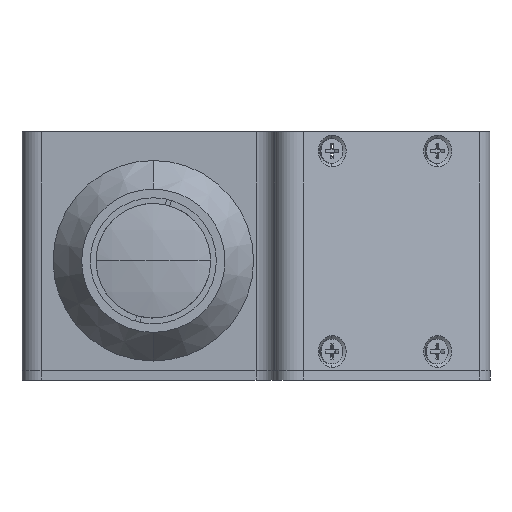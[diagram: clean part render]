
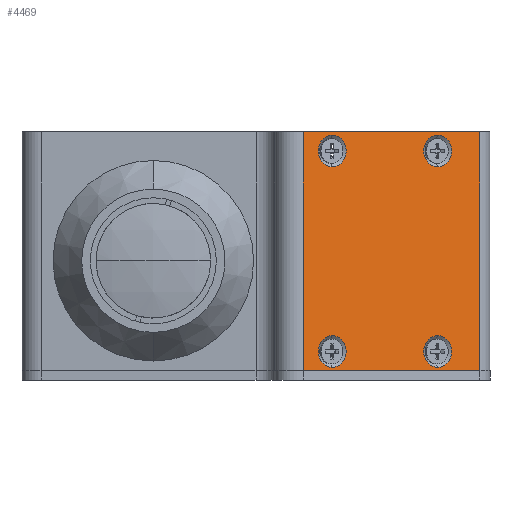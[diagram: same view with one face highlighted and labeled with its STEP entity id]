
A CAD part, left-side view. The second image highlights one B-rep face of the part: STEP entity #4469.
In plain terms, the highlighted planar face has unit normal (-0.883, -0.469, 0).
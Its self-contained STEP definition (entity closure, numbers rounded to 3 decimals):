
#260 = ORIENTED_EDGE ( 'NONE', *, *, #7083, .F. ) ;
#356 = CARTESIAN_POINT ( 'NONE',  ( 54.176, -59.548, -15.7 ) ) ;
#433 = DIRECTION ( 'NONE',  ( -0.883, -0.469, 0. ) ) ;
#706 = DIRECTION ( 'NONE',  ( -0.883, -0.469, 0. ) ) ;
#730 = ORIENTED_EDGE ( 'NONE', *, *, #13495, .F. ) ;
#780 = EDGE_CURVE ( 'NONE', #4722, #13202, #8121, .T. ) ;
#852 = DIRECTION ( 'NONE',  ( 0., 0., 1. ) ) ;
#990 = EDGE_LOOP ( 'NONE', ( #730, #13197 ) ) ;
#1703 = ORIENTED_EDGE ( 'NONE', *, *, #5938, .F. ) ;
#1982 = VERTEX_POINT ( 'NONE', #7827 ) ;
#2062 = DIRECTION ( 'NONE',  ( 0., 0., -1. ) ) ;
#2072 = CARTESIAN_POINT ( 'NONE',  ( 54.176, -59.548, -22.3 ) ) ;
#2614 = AXIS2_PLACEMENT_3D ( 'NONE', #4300, #12365, #5463 ) ;
#2702 = FACE_BOUND ( 'NONE', #990, .T. ) ;
#2752 = EDGE_CURVE ( 'NONE', #6493, #3518, #9275, .T. ) ;
#2759 = CARTESIAN_POINT ( 'NONE',  ( 39.181, -31.348, 27. ) ) ;
#2768 = VERTEX_POINT ( 'NONE', #13553 ) ;
#2824 = EDGE_CURVE ( 'NONE', #6493, #3565, #9457, .T. ) ;
#2871 = DIRECTION ( 'NONE',  ( -0.883, -0.469, 0. ) ) ;
#3037 = CARTESIAN_POINT ( 'NONE',  ( 39.181, -31.348, -23. ) ) ;
#3185 = CARTESIAN_POINT ( 'NONE',  ( 58.871, -68.378, 27. ) ) ;
#3339 = CARTESIAN_POINT ( 'NONE',  ( 42.439, -37.475, 19.7 ) ) ;
#3424 = CIRCLE ( 'NONE', #10269, 3.3 ) ;
#3518 = VERTEX_POINT ( 'NONE', #3037 ) ;
#3565 = VERTEX_POINT ( 'NONE', #3185 ) ;
#3611 = AXIS2_PLACEMENT_3D ( 'NONE', #7621, #706, #8776 ) ;
#3703 = CARTESIAN_POINT ( 'NONE',  ( 54.176, -59.548, 23. ) ) ;
#4043 = VECTOR ( 'NONE', #2062, 1000. ) ;
#4231 = DIRECTION ( 'NONE',  ( -0.883, -0.469, 0. ) ) ;
#4300 = CARTESIAN_POINT ( 'NONE',  ( 54.176, -59.548, -19. ) ) ;
#4469 = ADVANCED_FACE ( 'NONE', ( #11914, #14525, #2702, #11565, #8486 ), #11424, .T. ) ;
#4567 = CARTESIAN_POINT ( 'NONE',  ( 42.439, -37.475, -15.7 ) ) ;
#4722 = VERTEX_POINT ( 'NONE', #14141 ) ;
#4753 = EDGE_LOOP ( 'NONE', ( #260, #9949 ) ) ;
#4858 = DIRECTION ( 'NONE',  ( 0., 0., 1. ) ) ;
#4995 = ORIENTED_EDGE ( 'NONE', *, *, #2824, .F. ) ;
#5463 = DIRECTION ( 'NONE',  ( 0., 0., 1. ) ) ;
#5637 = ORIENTED_EDGE ( 'NONE', *, *, #9112, .T. ) ;
#5661 = DIRECTION ( 'NONE',  ( 0., 0., 1. ) ) ;
#5938 = EDGE_CURVE ( 'NONE', #10860, #12909, #6235, .T. ) ;
#5981 = VERTEX_POINT ( 'NONE', #12344 ) ;
#5992 = CARTESIAN_POINT ( 'NONE',  ( 42.439, -37.475, 26.3 ) ) ;
#6109 = EDGE_CURVE ( 'NONE', #1982, #3518, #10192, .T. ) ;
#6157 = AXIS2_PLACEMENT_3D ( 'NONE', #3703, #11766, #4858 ) ;
#6235 = CIRCLE ( 'NONE', #12005, 3.3 ) ;
#6389 = VERTEX_POINT ( 'NONE', #5992 ) ;
#6416 = CARTESIAN_POINT ( 'NONE',  ( 42.439, -37.475, -19. ) ) ;
#6493 = VERTEX_POINT ( 'NONE', #2759 ) ;
#6795 = CARTESIAN_POINT ( 'NONE',  ( 62.112, -74.473, 27. ) ) ;
#6808 = CIRCLE ( 'NONE', #6157, 3.3 ) ;
#7083 = EDGE_CURVE ( 'NONE', #6389, #8156, #14059, .T. ) ;
#7330 = CARTESIAN_POINT ( 'NONE',  ( 42.439, -37.475, 23. ) ) ;
#7527 = EDGE_LOOP ( 'NONE', ( #12790, #13738 ) ) ;
#7546 = DIRECTION ( 'NONE',  ( 0., 0., 1. ) ) ;
#7621 = CARTESIAN_POINT ( 'NONE',  ( 42.439, -37.475, 23. ) ) ;
#7719 = AXIS2_PLACEMENT_3D ( 'NONE', #9809, #2871, #10965 ) ;
#7760 = DIRECTION ( 'NONE',  ( -0.883, -0.469, 0. ) ) ;
#7827 = CARTESIAN_POINT ( 'NONE',  ( 58.871, -68.378, -23. ) ) ;
#7903 = DIRECTION ( 'NONE',  ( -0.883, -0.469, 0. ) ) ;
#8051 = EDGE_CURVE ( 'NONE', #2768, #5981, #9588, .T. ) ;
#8121 = CIRCLE ( 'NONE', #7719, 3.3 ) ;
#8156 = VERTEX_POINT ( 'NONE', #3339 ) ;
#8486 = FACE_OUTER_BOUND ( 'NONE', #10938, .T. ) ;
#8505 = DIRECTION ( 'NONE',  ( 0., 0., 1. ) ) ;
#8589 = EDGE_LOOP ( 'NONE', ( #10878, #1703 ) ) ;
#8776 = DIRECTION ( 'NONE',  ( 0., 0., 1. ) ) ;
#9112 = EDGE_CURVE ( 'NONE', #1982, #3565, #14840, .T. ) ;
#9176 = VECTOR ( 'NONE', #11045, 1000. ) ;
#9275 = LINE ( 'NONE', #11311, #4043 ) ;
#9457 = LINE ( 'NONE', #6795, #12162 ) ;
#9588 = CIRCLE ( 'NONE', #12021, 3.3 ) ;
#9809 = CARTESIAN_POINT ( 'NONE',  ( 42.439, -37.475, -19. ) ) ;
#9870 = CARTESIAN_POINT ( 'NONE',  ( 58.871, -68.378, 2. ) ) ;
#9949 = ORIENTED_EDGE ( 'NONE', *, *, #13960, .F. ) ;
#9995 = EDGE_CURVE ( 'NONE', #5981, #2768, #6808, .T. ) ;
#10192 = LINE ( 'NONE', #13687, #12871 ) ;
#10269 = AXIS2_PLACEMENT_3D ( 'NONE', #7330, #433, #8505 ) ;
#10281 = DIRECTION ( 'NONE',  ( 0.469, -0.883, 0. ) ) ;
#10684 = CIRCLE ( 'NONE', #12374, 3.3 ) ;
#10860 = VERTEX_POINT ( 'NONE', #2072 ) ;
#10878 = ORIENTED_EDGE ( 'NONE', *, *, #13046, .F. ) ;
#10938 = EDGE_LOOP ( 'NONE', ( #11539, #5637, #4995, #11075 ) ) ;
#10965 = DIRECTION ( 'NONE',  ( 0., 0., 1. ) ) ;
#11045 = DIRECTION ( 'NONE',  ( 0., 0., 1. ) ) ;
#11075 = ORIENTED_EDGE ( 'NONE', *, *, #2752, .T. ) ;
#11150 = CARTESIAN_POINT ( 'NONE',  ( 54.176, -59.548, -19. ) ) ;
#11311 = CARTESIAN_POINT ( 'NONE',  ( 39.181, -31.348, 2. ) ) ;
#11414 = CIRCLE ( 'NONE', #2614, 3.3 ) ;
#11424 = PLANE ( 'NONE',  #12922 ) ;
#11539 = ORIENTED_EDGE ( 'NONE', *, *, #6109, .F. ) ;
#11565 = FACE_BOUND ( 'NONE', #4753, .T. ) ;
#11766 = DIRECTION ( 'NONE',  ( -0.883, -0.469, 0. ) ) ;
#11914 = FACE_BOUND ( 'NONE', #7527, .T. ) ;
#12005 = AXIS2_PLACEMENT_3D ( 'NONE', #11150, #4231, #12284 ) ;
#12021 = AXIS2_PLACEMENT_3D ( 'NONE', #14594, #7760, #852 ) ;
#12162 = VECTOR ( 'NONE', #10281, 1000. ) ;
#12284 = DIRECTION ( 'NONE',  ( 0., 0., 1. ) ) ;
#12344 = CARTESIAN_POINT ( 'NONE',  ( 54.176, -59.548, 26.3 ) ) ;
#12365 = DIRECTION ( 'NONE',  ( -0.883, -0.469, 0. ) ) ;
#12374 = AXIS2_PLACEMENT_3D ( 'NONE', #6416, #14383, #7546 ) ;
#12551 = CARTESIAN_POINT ( 'NONE',  ( 49.084, -49.971, 2. ) ) ;
#12790 = ORIENTED_EDGE ( 'NONE', *, *, #9995, .F. ) ;
#12871 = VECTOR ( 'NONE', #14796, 1000. ) ;
#12909 = VERTEX_POINT ( 'NONE', #356 ) ;
#12922 = AXIS2_PLACEMENT_3D ( 'NONE', #12551, #7903, #5661 ) ;
#13046 = EDGE_CURVE ( 'NONE', #12909, #10860, #11414, .T. ) ;
#13197 = ORIENTED_EDGE ( 'NONE', *, *, #780, .F. ) ;
#13202 = VERTEX_POINT ( 'NONE', #4567 ) ;
#13495 = EDGE_CURVE ( 'NONE', #13202, #4722, #10684, .T. ) ;
#13553 = CARTESIAN_POINT ( 'NONE',  ( 54.176, -59.548, 19.7 ) ) ;
#13687 = CARTESIAN_POINT ( 'NONE',  ( 62.112, -74.473, -23. ) ) ;
#13738 = ORIENTED_EDGE ( 'NONE', *, *, #8051, .F. ) ;
#13960 = EDGE_CURVE ( 'NONE', #8156, #6389, #3424, .T. ) ;
#14059 = CIRCLE ( 'NONE', #3611, 3.3 ) ;
#14141 = CARTESIAN_POINT ( 'NONE',  ( 42.439, -37.475, -22.3 ) ) ;
#14383 = DIRECTION ( 'NONE',  ( -0.883, -0.469, 0. ) ) ;
#14525 = FACE_BOUND ( 'NONE', #8589, .T. ) ;
#14594 = CARTESIAN_POINT ( 'NONE',  ( 54.176, -59.548, 23. ) ) ;
#14796 = DIRECTION ( 'NONE',  ( -0.469, 0.883, 0. ) ) ;
#14840 = LINE ( 'NONE', #9870, #9176 ) ;
